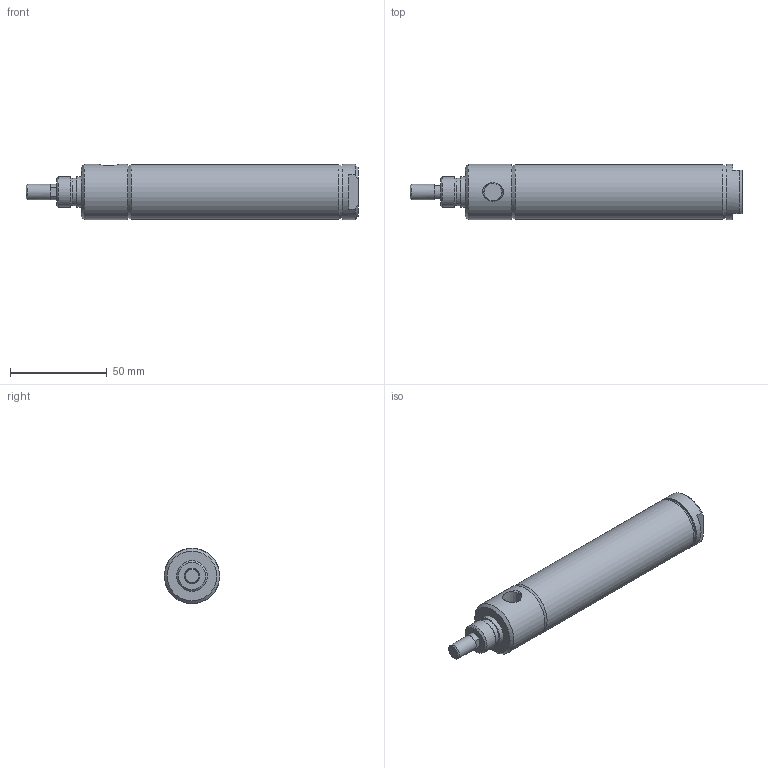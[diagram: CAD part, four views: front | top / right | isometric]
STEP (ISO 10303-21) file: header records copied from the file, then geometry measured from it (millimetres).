
FILE_DESCRIPTION( ( 'STEP AP214' ), '1' );
FILE_NAME( 'p:/temp/worker_461/temp/exporttempdir_3824_70_8IgMk/format_0/1062D01-03A-03.stp', '2020-05-07T14:51:50', ( 'License CC BY-ND 4.0' ), ( 'CADENAS' ), ' ', 'PARTsolutions', ' ' );
FILE_SCHEMA( ( 'AUTOMOTIVE_DESIGN { 1 0 10303 214 1 1 1 1 }' ) );
Length unit declared in the file: inch
Products named in the file (3): 1062D01-03A-03; _1062D01-03A-031062D01-03A-0300A00A0b; _1062D01-03A-031062D01-03A-0300A00A0r
Assembly tree (2 placements, depth 2):
  1062D01-03A-03
    _1062D01-03A-031062D01-03A-0300A00A0b
    _1062D01-03A-031062D01-03A-0300A00A0r
Bounding box: 171.45 x 28.57 x 28.57 mm (x, y, z)
Volume: 52237.8 mm3; surface area: 33376.4 mm2
Topology: 2 solids, 2 shells, 51 faces, 99 edges, 62 vertices
Faces by surface type: plane 26, cone 13, cylinder 12
Full cylindrical faces by diameter (mm): 7.938 x1, 7.95 x3, 14.196 x1, 15.85 x1, 15.875 x1, 26.987 x2, 28.397 x1, 28.575 x2
Entity records: 1700 total; most frequent: CARTESIAN_POINT 278, DIRECTION 220, ORIENTED_EDGE 148, AXIS2_PLACEMENT_3D 100, EDGE_LOOP 82, EDGE_CURVE 74, FACE_OUTER_BOUND 63, VERTEX_POINT 58
